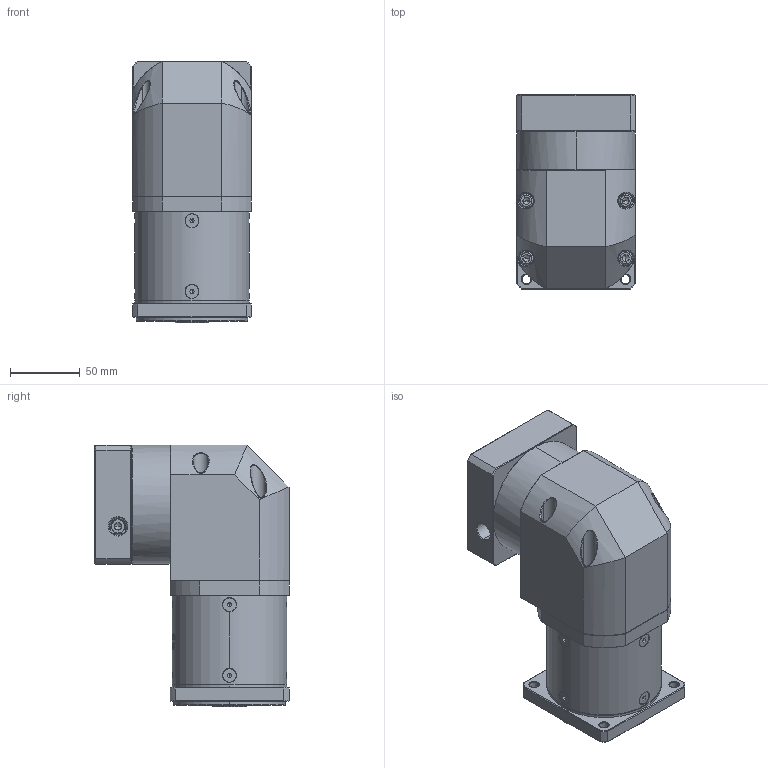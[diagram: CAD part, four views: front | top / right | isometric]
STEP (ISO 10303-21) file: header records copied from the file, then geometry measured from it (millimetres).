
FILE_DESCRIPTION (( 'STEP AP214' ), '1' );
FILE_NAME ('ZFR080-K15-L2-P2-19-80-100-M6.step', '2023-08-25T03:57:21', ( '' ), ( '' ), 'SwSTEP 2.0', 'SolidWorks 2016', '' );
FILE_SCHEMA (( 'AUTOMOTIVE_DESIGN' ));
Length unit declared in the file: millimetre
Products named in the file (1): ZFR080-K15-L2-P2-19-80-100-M6
Bounding box: 85 x 138.6 x 187 mm (x, y, z)
Volume: 1343453.7 mm3; surface area: 139529.8 mm2
Topology: 13 solids, 13 shells, 2409 faces, 6215 edges, 3913 vertices
Faces by surface type: plane 1187, cylinder 417, bspline 414, cone 359, torus 32
Entity records: 124941 total; most frequent: CARTESIAN_POINT 44900, ORIENTED_EDGE 12342, DIRECTION 9405, EDGE_CURVE 6171, VERTEX_POINT 3913, VECTOR 3341, LINE 3341, AXIS2_PLACEMENT_3D 3032
